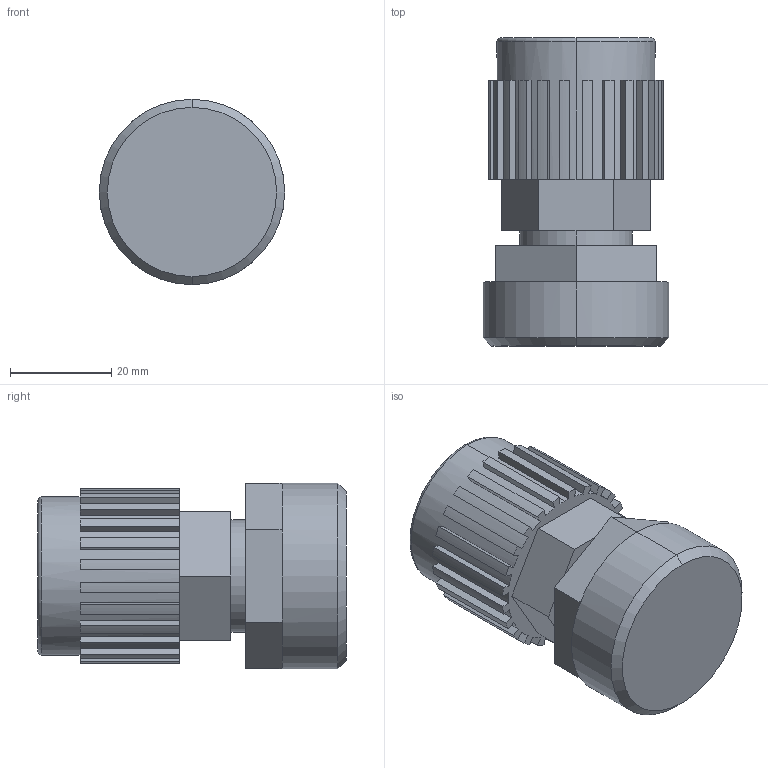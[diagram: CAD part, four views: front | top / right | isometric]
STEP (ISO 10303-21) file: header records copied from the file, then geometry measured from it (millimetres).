
FILE_DESCRIPTION (( 'STEP AP214' ), '1' );
FILE_NAME ('08-pillar-s-300-with-top-mount-adapter.STEP', '2012-11-27T23:12:03', ( '' ), ( '' ), 'SwSTEP 2.0', 'SolidWorks 2012', '' );
FILE_SCHEMA (( 'AUTOMOTIVE_DESIGN' ));
Length unit declared in the file: inch
Products named in the file (1): 08-pillar-s-300-with-top-mount-adapter
Bounding box: 36.6 x 60.83 x 36.66 mm (x, y, z)
Volume: 47740.2 mm3; surface area: 11045.7 mm2
Topology: 1 solids, 1 shells, 140 faces, 384 edges, 250 vertices
Faces by surface type: plane 102, cylinder 32, torus 4, cone 2
Entity records: 4901 total; most frequent: DIRECTION 800, CARTESIAN_POINT 775, ORIENTED_EDGE 768, EDGE_CURVE 384, AXIS2_PLACEMENT_3D 275, VECTOR 250, LINE 250, VERTEX_POINT 250
